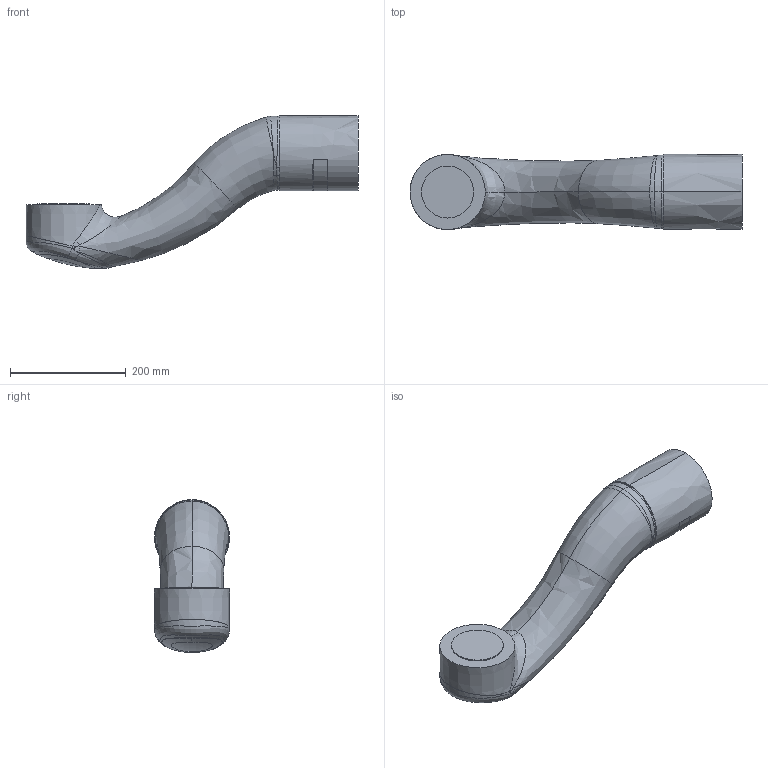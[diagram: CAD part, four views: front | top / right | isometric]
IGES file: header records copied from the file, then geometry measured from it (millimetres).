
Start section:  PTC IGES file: raxis_view_yr-n1-06vxc12-a00_.igs
Global section: file name: raxis_view_yr-n1-06vxc12-a00_.igs; native system: Creo Parametric by PTC Inc.; preprocessor: 2021072; author: yoizumi; organization: Unknown; date: 20250214.090829; units: millimetre
Bounding box: 574.5 x 130 x 264.57 mm (x, y, z)
Volume: 6367846.7 mm3; surface area: 248300.4 mm2
Topology: 1 solids, 1 shells, 73 faces, 188 edges, 120 vertices
Faces by surface type: bspline 62, revolution 11
